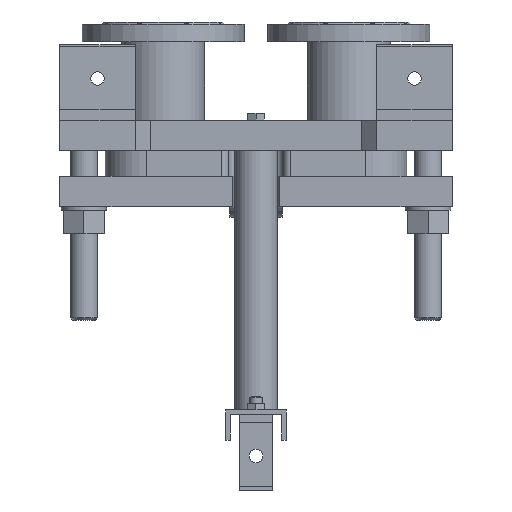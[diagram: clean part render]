
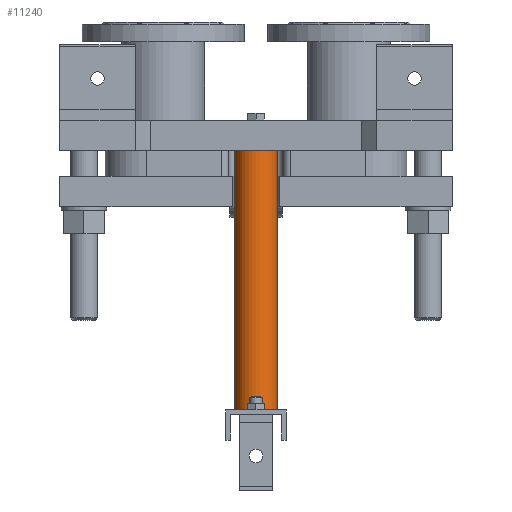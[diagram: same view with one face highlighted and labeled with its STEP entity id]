
A CAD part, front view. The second image highlights one B-rep face of the part: STEP entity #11240.
In plain terms, the highlighted cylindrical face has radius 28.5 mm (diameter 57 mm), a full revolution.
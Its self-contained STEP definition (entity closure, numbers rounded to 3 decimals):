
#781=LINE('',#22043,#1754);
#1754=VECTOR('',#14569,28.5);
#2333=CYLINDRICAL_SURFACE('',#12263,28.5);
#2995=FACE_OUTER_BOUND('',#3777,.T.);
#3777=EDGE_LOOP('',(#9013,#9014,#9015,#9016));
#4462=CIRCLE('',#12264,28.5);
#4463=CIRCLE('',#12265,28.5);
#5286=VERTEX_POINT('',#22040);
#5287=VERTEX_POINT('',#22042);
#6596=EDGE_CURVE('',#5286,#5286,#4462,.T.);
#6597=EDGE_CURVE('',#5286,#5287,#781,.T.);
#6598=EDGE_CURVE('',#5287,#5287,#4463,.T.);
#9013=ORIENTED_EDGE('',*,*,#6596,.F.);
#9014=ORIENTED_EDGE('',*,*,#6597,.T.);
#9015=ORIENTED_EDGE('',*,*,#6598,.T.);
#9016=ORIENTED_EDGE('',*,*,#6597,.F.);
#11240=ADVANCED_FACE('',(#2995),#2333,.T.);
#12263=AXIS2_PLACEMENT_3D('',#22039,#14565,#14566);
#12264=AXIS2_PLACEMENT_3D('',#22041,#14567,#14568);
#12265=AXIS2_PLACEMENT_3D('',#22044,#14570,#14571);
#14565=DIRECTION('center_axis',(0.,0.,
-1.));
#14566=DIRECTION('ref_axis',(-1.,0.,0.));
#14567=DIRECTION('center_axis',(0.,0.,
-1.));
#14568=DIRECTION('ref_axis',(-1.,0.,0.));
#14569=DIRECTION('',(0.,0.,1.));
#14570=DIRECTION('center_axis',(0.,0.,
-1.));
#14571=DIRECTION('ref_axis',(-1.,0.,0.));
#22039=CARTESIAN_POINT('Origin',(0.,215.,0.));
#22040=CARTESIAN_POINT('',(28.5,215.,-344.));
#22041=CARTESIAN_POINT('Origin',(0.,215.,-344.));
#22042=CARTESIAN_POINT('',(28.5,215.,0.));
#22043=CARTESIAN_POINT('',(28.5,215.,0.));
#22044=CARTESIAN_POINT('Origin',(0.,215.,0.));
